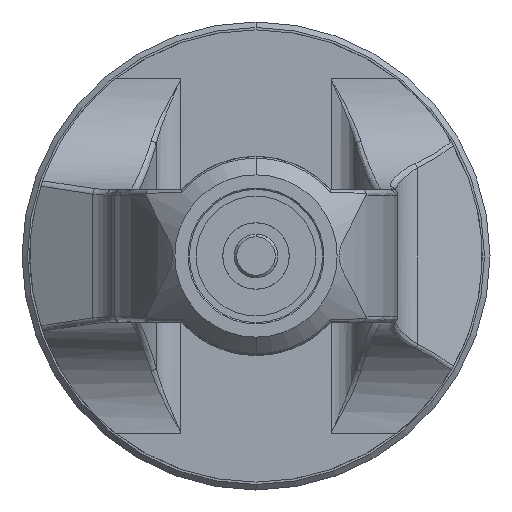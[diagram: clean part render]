
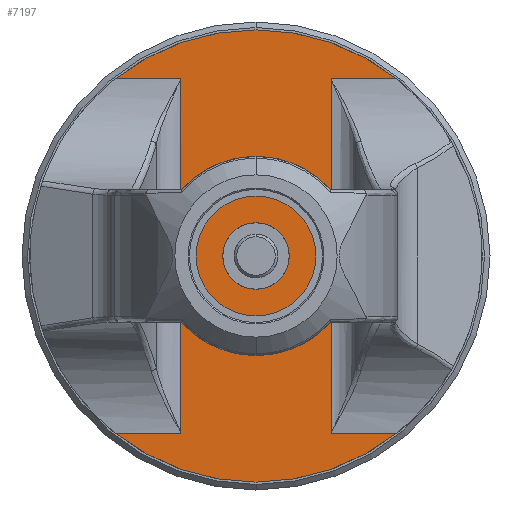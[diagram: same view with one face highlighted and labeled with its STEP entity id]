
A CAD part, front view. The second image highlights one B-rep face of the part: STEP entity #7197.
In plain terms, the highlighted planar face has unit normal (0, -1, 0).
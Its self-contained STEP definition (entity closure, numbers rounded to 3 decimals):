
#31 = EDGE_CURVE ( 'NONE', #15768, #17984, #19822, .T. ) ;
#32 = EDGE_CURVE ( 'NONE', #15703, #15919, #19819, .T. ) ;
#33 = EDGE_CURVE ( 'NONE', #18002, #15829, #19814, .T. ) ;
#36 = EDGE_CURVE ( 'NONE', #15916, #15768, #19812, .T. ) ;
#47 = EDGE_CURVE ( 'NONE', #17984, #15716, #19803, .T. ) ;
#51 = EDGE_CURVE ( 'NONE', #15748, #15703, #19797, .T. ) ;
#52 = EDGE_CURVE ( 'NONE', #15919, #15851, #19792, .T. ) ;
#54 = EDGE_CURVE ( 'NONE', #15716, #15781, #19789, .T. ) ;
#55 = EDGE_CURVE ( 'NONE', #15854, #15916, #19784, .T. ) ;
#2412 = PLANE ( 'NONE',  #20364 ) ;
#2413 = CARTESIAN_POINT ( 'NONE',  ( -26.506, 85.242, -66.675 ) ) ;
#2414 = DIRECTION ( 'NONE',  ( 0., 1., 0. ) ) ;
#2415 = DIRECTION ( 'NONE',  ( 0., 0., 1. ) ) ;
#4292 = CARTESIAN_POINT ( 'NONE',  ( 21.587, 85.242, 50.8 ) ) ;
#4305 = CARTESIAN_POINT ( 'NONE',  ( -40.385, 85.242, 50.8 ) ) ;
#4337 = CARTESIAN_POINT ( 'NONE',  ( 40.385, 85.242, 50.8 ) ) ;
#4357 = CARTESIAN_POINT ( 'NONE',  ( -21.587, 85.242, -50.8 ) ) ;
#4370 = CARTESIAN_POINT ( 'NONE',  ( 0., 85.242, 64.897 ) ) ;
#4418 = CARTESIAN_POINT ( 'NONE',  ( 0., 85.242, -9.525 ) ) ;
#4440 = CARTESIAN_POINT ( 'NONE',  ( 40.385, 85.242, -50.8 ) ) ;
#4443 = CARTESIAN_POINT ( 'NONE',  ( 0., 85.242, -64.897 ) ) ;
#4505 = CARTESIAN_POINT ( 'NONE',  ( -40.385, 85.242, -50.8 ) ) ;
#4508 = CARTESIAN_POINT ( 'NONE',  ( 21.587, 85.242, -50.8 ) ) ;
#4526 = CARTESIAN_POINT ( 'NONE',  ( 0., 85.242, 0. ) ) ;
#4527 = DIRECTION ( 'NONE',  ( 0., 1., 0. ) ) ;
#4528 = DIRECTION ( 'NONE',  ( 0., 0., 1. ) ) ;
#4761 = CARTESIAN_POINT ( 'NONE',  ( 0., 85.242, 0. ) ) ;
#4762 = DIRECTION ( 'NONE',  ( 0., 1., 0. ) ) ;
#4763 = DIRECTION ( 'NONE',  ( 0., 0., 1. ) ) ;
#5687 = CARTESIAN_POINT ( 'NONE',  ( 0., 85.242, 0. ) ) ;
#5688 = DIRECTION ( 'NONE',  ( 0., -1., 0. ) ) ;
#5689 = DIRECTION ( 'NONE',  ( 0., 0., -1. ) ) ;
#6035 = CARTESIAN_POINT ( 'NONE',  ( -21.587, 85.242, 50.8 ) ) ;
#6039 = CARTESIAN_POINT ( 'NONE',  ( 0., 85.242, 9.525 ) ) ;
#6315 = CIRCLE ( 'NONE', #15982, 64.897 ) ;
#6329 = CIRCLE ( 'NONE', #15967, 64.897 ) ;
#6504 = CIRCLE ( 'NONE', #16010, 9.525 ) ;
#7197 = ADVANCED_FACE ( 'NONE', ( #20341, #20340 ), #2412, .F. ) ;
#7745 = ORIENTED_EDGE ( 'NONE', *, *, #16220, .F. ) ;
#7746 = ORIENTED_EDGE ( 'NONE', *, *, #55, .F. ) ;
#7747 = ORIENTED_EDGE ( 'NONE', *, *, #36, .F. ) ;
#7748 = ORIENTED_EDGE ( 'NONE', *, *, #31, .F. ) ;
#7750 = ORIENTED_EDGE ( 'NONE', *, *, #47, .F. ) ;
#7752 = ORIENTED_EDGE ( 'NONE', *, *, #54, .F. ) ;
#7756 = ORIENTED_EDGE ( 'NONE', *, *, #16234, .F. ) ;
#7757 = ORIENTED_EDGE ( 'NONE', *, *, #51, .F. ) ;
#7758 = ORIENTED_EDGE ( 'NONE', *, *, #32, .F. ) ;
#7759 = ORIENTED_EDGE ( 'NONE', *, *, #52, .F. ) ;
#7760 = ORIENTED_EDGE ( 'NONE', *, *, #33, .F. ) ;
#7761 = ORIENTED_EDGE ( 'NONE', *, *, #16526, .F. ) ;
#12012 = EDGE_LOOP ( 'NONE', ( #7761, #7760 ) ) ;
#12013 = EDGE_LOOP ( 'NONE', ( #7759, #7758, #7757, #7756, #7752, #7750, #7748, #7747, #7746, #7745 ) ) ;
#15703 = VERTEX_POINT ( 'NONE', #4292 ) ;
#15716 = VERTEX_POINT ( 'NONE', #4305 ) ;
#15748 = VERTEX_POINT ( 'NONE', #4337 ) ;
#15768 = VERTEX_POINT ( 'NONE', #4357 ) ;
#15781 = VERTEX_POINT ( 'NONE', #4370 ) ;
#15829 = VERTEX_POINT ( 'NONE', #4418 ) ;
#15851 = VERTEX_POINT ( 'NONE', #4440 ) ;
#15854 = VERTEX_POINT ( 'NONE', #4443 ) ;
#15916 = VERTEX_POINT ( 'NONE', #4505 ) ;
#15919 = VERTEX_POINT ( 'NONE', #4508 ) ;
#15967 = AXIS2_PLACEMENT_3D ( 'NONE', #4761, #4762, #4763 ) ;
#15982 = AXIS2_PLACEMENT_3D ( 'NONE', #4526, #4527, #4528 ) ;
#16010 = AXIS2_PLACEMENT_3D ( 'NONE', #5687, #5688, #5689 ) ;
#16209 = AXIS2_PLACEMENT_3D ( 'NONE', #17322, #17321, #17320 ) ;
#16211 = AXIS2_PLACEMENT_3D ( 'NONE', #17325, #17324, #17323 ) ;
#16216 = AXIS2_PLACEMENT_3D ( 'NONE', #17715, #17714, #17713 ) ;
#16220 = EDGE_CURVE ( 'NONE', #15851, #15854, #6315, .T. ) ;
#16234 = EDGE_CURVE ( 'NONE', #15781, #15748, #6329, .T. ) ;
#16526 = EDGE_CURVE ( 'NONE', #15829, #18002, #6504, .T. ) ;
#17320 = DIRECTION ( 'NONE',  ( 0., 0., 1. ) ) ;
#17321 = DIRECTION ( 'NONE',  ( 0., 1., 0. ) ) ;
#17322 = CARTESIAN_POINT ( 'NONE',  ( 0., 85.242, 0. ) ) ;
#17323 = DIRECTION ( 'NONE',  ( 0., 0., 1. ) ) ;
#17324 = DIRECTION ( 'NONE',  ( 0., 1., 0. ) ) ;
#17325 = CARTESIAN_POINT ( 'NONE',  ( 0., 85.242, 0. ) ) ;
#17332 = DIRECTION ( 'NONE',  ( 1., 0., 0. ) ) ;
#17333 = CARTESIAN_POINT ( 'NONE',  ( -26.506, 85.242, -50.8 ) ) ;
#17334 = DIRECTION ( 'NONE',  ( -1., 0., 0. ) ) ;
#17335 = CARTESIAN_POINT ( 'NONE',  ( -26.506, 85.242, 50.8 ) ) ;
#17411 = DIRECTION ( 'NONE',  ( -1., 0., 0. ) ) ;
#17412 = CARTESIAN_POINT ( 'NONE',  ( -26.506, 85.242, 50.8 ) ) ;
#17521 = DIRECTION ( 'NONE',  ( 1., 0., 0. ) ) ;
#17525 = CARTESIAN_POINT ( 'NONE',  ( -26.506, 85.242, -50.8 ) ) ;
#17713 = DIRECTION ( 'NONE',  ( 0., 0., -1. ) ) ;
#17714 = DIRECTION ( 'NONE',  ( 0., -1., 0. ) ) ;
#17715 = CARTESIAN_POINT ( 'NONE',  ( 0., 85.242, 0. ) ) ;
#17716 = DIRECTION ( 'NONE',  ( 0., 0., -1. ) ) ;
#17717 = CARTESIAN_POINT ( 'NONE',  ( 21.587, 85.242, -66.675 ) ) ;
#17718 = DIRECTION ( 'NONE',  ( 0., 0., 1. ) ) ;
#17719 = CARTESIAN_POINT ( 'NONE',  ( -21.587, 85.242, -66.675 ) ) ;
#17984 = VERTEX_POINT ( 'NONE', #6035 ) ;
#18002 = VERTEX_POINT ( 'NONE', #6039 ) ;
#19784 = CIRCLE ( 'NONE', #16209, 64.897 ) ;
#19789 = CIRCLE ( 'NONE', #16211, 64.897 ) ;
#19791 = VECTOR ( 'NONE', #17332, 1000. ) ;
#19792 = LINE ( 'NONE', #17333, #19791 ) ;
#19796 = VECTOR ( 'NONE', #17334, 1000. ) ;
#19797 = LINE ( 'NONE', #17335, #19796 ) ;
#19800 = VECTOR ( 'NONE', #17411, 1000. ) ;
#19803 = LINE ( 'NONE', #17412, #19800 ) ;
#19809 = VECTOR ( 'NONE', #17521, 1000. ) ;
#19812 = LINE ( 'NONE', #17525, #19809 ) ;
#19814 = CIRCLE ( 'NONE', #16216, 9.525 ) ;
#19818 = VECTOR ( 'NONE', #17716, 1000. ) ;
#19819 = LINE ( 'NONE', #17717, #19818 ) ;
#19820 = VECTOR ( 'NONE', #17718, 1000. ) ;
#19822 = LINE ( 'NONE', #17719, #19820 ) ;
#20340 = FACE_OUTER_BOUND ( 'NONE', #12013, .T. ) ;
#20341 = FACE_BOUND ( 'NONE', #12012, .T. ) ;
#20364 = AXIS2_PLACEMENT_3D ( 'NONE', #2413, #2414, #2415 ) ;
